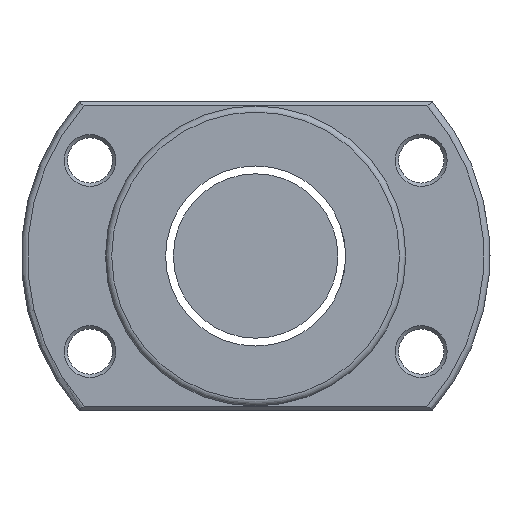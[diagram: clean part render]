
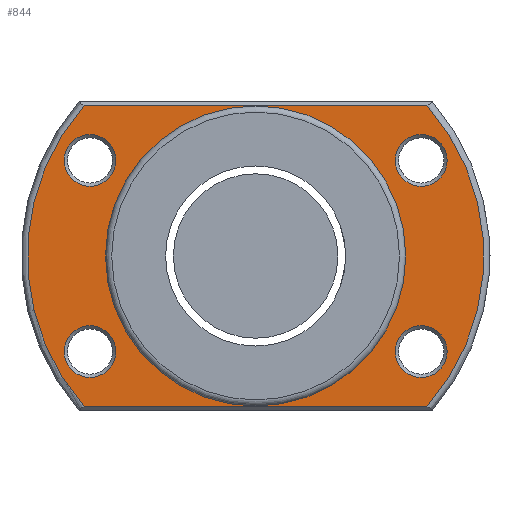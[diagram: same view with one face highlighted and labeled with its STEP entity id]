
A CAD part, left-side view. The second image highlights one B-rep face of the part: STEP entity #844.
In plain terms, the highlighted planar face has unit normal (-1, 0, 0).
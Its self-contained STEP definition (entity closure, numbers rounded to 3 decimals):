
#18 = EDGE_CURVE ( 'NONE', #2846, #2863, #2046, .T. ) ;
#24 = DIRECTION ( 'NONE',  ( 1., 0., 0. ) ) ;
#88 = CARTESIAN_POINT ( 'NONE',  ( -79.5, 0., 0. ) ) ;
#95 = CIRCLE ( 'NONE', #920, 6.3 ) ;
#96 = LINE ( 'NONE', #1959, #1553 ) ;
#98 = DIRECTION ( 'NONE',  ( 0., 0., 1. ) ) ;
#144 = CARTESIAN_POINT ( 'NONE',  ( -79.5, 40.27, -16.95 ) ) ;
#146 = CARTESIAN_POINT ( 'NONE',  ( -79.5, -41.634, -36.7 ) ) ;
#198 = CIRCLE ( 'NONE', #2687, 6.3 ) ;
#236 = CARTESIAN_POINT ( 'NONE',  ( -79.5, 40.27, -23.25 ) ) ;
#239 = EDGE_CURVE ( 'NONE', #2789, #706, #2343, .T. ) ;
#251 = CARTESIAN_POINT ( 'NONE',  ( -79.5, 0., 0. ) ) ;
#289 = AXIS2_PLACEMENT_3D ( 'NONE', #251, #24, #2131 ) ;
#333 = EDGE_LOOP ( 'NONE', ( #645 ) ) ;
#379 = ORIENTED_EDGE ( 'NONE', *, *, #239, .T. ) ;
#425 = EDGE_CURVE ( 'NONE', #468, #468, #95, .T. ) ;
#468 = VERTEX_POINT ( 'NONE', #1173 ) ;
#484 = FACE_BOUND ( 'NONE', #333, .T. ) ;
#516 = ORIENTED_EDGE ( 'NONE', *, *, #18, .T. ) ;
#535 = AXIS2_PLACEMENT_3D ( 'NONE', #236, #1854, #921 ) ;
#626 = DIRECTION ( 'NONE',  ( 0., 1., 0. ) ) ;
#645 = ORIENTED_EDGE ( 'NONE', *, *, #2475, .T. ) ;
#706 = VERTEX_POINT ( 'NONE', #1444 ) ;
#719 = FACE_BOUND ( 'NONE', #2463, .T. ) ;
#765 = ORIENTED_EDGE ( 'NONE', *, *, #1597, .T. ) ;
#802 = VERTEX_POINT ( 'NONE', #1561 ) ;
#844 = ADVANCED_FACE ( 'NONE', ( #2359, #1888, #484, #719, #1412, #1424 ), #2604, .T. ) ;
#858 = ORIENTED_EDGE ( 'NONE', *, *, #425, .T. ) ;
#893 = DIRECTION ( 'NONE',  ( 0., 0., 1. ) ) ;
#920 = AXIS2_PLACEMENT_3D ( 'NONE', #1960, #2019, #1269 ) ;
#921 = DIRECTION ( 'NONE',  ( 0., 0., 1. ) ) ;
#925 = AXIS2_PLACEMENT_3D ( 'NONE', #2190, #1464, #98 ) ;
#988 = DIRECTION ( 'NONE',  ( -1., 0., 0. ) ) ;
#1067 = DIRECTION ( 'NONE',  ( 0., 0., 1. ) ) ;
#1099 = EDGE_CURVE ( 'NONE', #706, #2846, #96, .T. ) ;
#1143 = EDGE_LOOP ( 'NONE', ( #765 ) ) ;
#1173 = CARTESIAN_POINT ( 'NONE',  ( -79.5, 40.27, 29.55 ) ) ;
#1248 = EDGE_LOOP ( 'NONE', ( #1971 ) ) ;
#1269 = DIRECTION ( 'NONE',  ( 0., 0., 1. ) ) ;
#1299 = ORIENTED_EDGE ( 'NONE', *, *, #2282, .T. ) ;
#1412 = FACE_BOUND ( 'NONE', #1143, .T. ) ;
#1424 = FACE_OUTER_BOUND ( 'NONE', #2170, .T. ) ;
#1442 = ORIENTED_EDGE ( 'NONE', *, *, #1099, .T. ) ;
#1444 = CARTESIAN_POINT ( 'NONE',  ( -79.5, 41.634, -36.7 ) ) ;
#1464 = DIRECTION ( 'NONE',  ( 1., 0., 0. ) ) ;
#1525 = LINE ( 'NONE', #2269, #1655 ) ;
#1541 = EDGE_LOOP ( 'NONE', ( #2518 ) ) ;
#1553 = VECTOR ( 'NONE', #2898, 1000. ) ;
#1561 = CARTESIAN_POINT ( 'NONE',  ( -79.5, -40.27, 29.55 ) ) ;
#1597 = EDGE_CURVE ( 'NONE', #2238, #2238, #2496, .T. ) ;
#1615 = DIRECTION ( 'NONE',  ( -1., 0., 0. ) ) ;
#1636 = EDGE_CURVE ( 'NONE', #2456, #2456, #2299, .T. ) ;
#1655 = VECTOR ( 'NONE', #626, 1000. ) ;
#1787 = DIRECTION ( 'NONE',  ( -1., 0., 0. ) ) ;
#1854 = DIRECTION ( 'NONE',  ( 1., 0., 0. ) ) ;
#1888 = FACE_BOUND ( 'NONE', #1248, .T. ) ;
#1918 = DIRECTION ( 'NONE',  ( 0., 0., 1. ) ) ;
#1959 = CARTESIAN_POINT ( 'NONE',  ( -79.5, 57., -36.7 ) ) ;
#1960 = CARTESIAN_POINT ( 'NONE',  ( -79.5, 40.27, 23.25 ) ) ;
#1971 = ORIENTED_EDGE ( 'NONE', *, *, #2021, .T. ) ;
#2010 = CARTESIAN_POINT ( 'NONE',  ( -79.5, -41.634, 36.7 ) ) ;
#2019 = DIRECTION ( 'NONE',  ( 1., 0., 0. ) ) ;
#2021 = EDGE_CURVE ( 'NONE', #2715, #2715, #2542, .T. ) ;
#2046 = CIRCLE ( 'NONE', #2830, 55.5 ) ;
#2111 = DIRECTION ( 'NONE',  ( 0., 0., 1. ) ) ;
#2131 = DIRECTION ( 'NONE',  ( 0., 0., -1. ) ) ;
#2170 = EDGE_LOOP ( 'NONE', ( #1442, #516, #1299, #379 ) ) ;
#2190 = CARTESIAN_POINT ( 'NONE',  ( -79.5, -40.27, -23.25 ) ) ;
#2238 = VERTEX_POINT ( 'NONE', #2258 ) ;
#2245 = AXIS2_PLACEMENT_3D ( 'NONE', #2804, #1615, #2111 ) ;
#2258 = CARTESIAN_POINT ( 'NONE',  ( -79.5, 0., -36.5 ) ) ;
#2269 = CARTESIAN_POINT ( 'NONE',  ( -79.5, 57., 36.7 ) ) ;
#2282 = EDGE_CURVE ( 'NONE', #2863, #2789, #1525, .T. ) ;
#2299 = CIRCLE ( 'NONE', #535, 6.3 ) ;
#2343 = CIRCLE ( 'NONE', #2732, 55.5 ) ;
#2359 = FACE_BOUND ( 'NONE', #1541, .T. ) ;
#2440 = CARTESIAN_POINT ( 'NONE',  ( -79.5, -40.27, -16.95 ) ) ;
#2456 = VERTEX_POINT ( 'NONE', #144 ) ;
#2463 = EDGE_LOOP ( 'NONE', ( #858 ) ) ;
#2475 = EDGE_CURVE ( 'NONE', #802, #802, #198, .T. ) ;
#2496 = CIRCLE ( 'NONE', #289, 36.5 ) ;
#2518 = ORIENTED_EDGE ( 'NONE', *, *, #1636, .T. ) ;
#2542 = CIRCLE ( 'NONE', #925, 6.3 ) ;
#2604 = PLANE ( 'NONE',  #2245 ) ;
#2650 = CARTESIAN_POINT ( 'NONE',  ( -79.5, -40.27, 23.25 ) ) ;
#2677 = DIRECTION ( 'NONE',  ( 1., 0., 0. ) ) ;
#2687 = AXIS2_PLACEMENT_3D ( 'NONE', #2650, #2677, #1067 ) ;
#2715 = VERTEX_POINT ( 'NONE', #2440 ) ;
#2732 = AXIS2_PLACEMENT_3D ( 'NONE', #88, #988, #1918 ) ;
#2764 = CARTESIAN_POINT ( 'NONE',  ( -79.5, 41.634, 36.7 ) ) ;
#2789 = VERTEX_POINT ( 'NONE', #2764 ) ;
#2804 = CARTESIAN_POINT ( 'NONE',  ( -79.5, 57., 0. ) ) ;
#2830 = AXIS2_PLACEMENT_3D ( 'NONE', #2996, #1787, #893 ) ;
#2846 = VERTEX_POINT ( 'NONE', #146 ) ;
#2863 = VERTEX_POINT ( 'NONE', #2010 ) ;
#2898 = DIRECTION ( 'NONE',  ( 0., -1., 0. ) ) ;
#2996 = CARTESIAN_POINT ( 'NONE',  ( -79.5, 0., 0. ) ) ;
